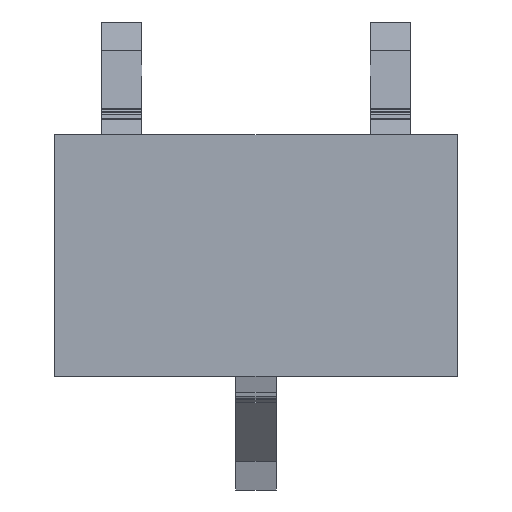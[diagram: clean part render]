
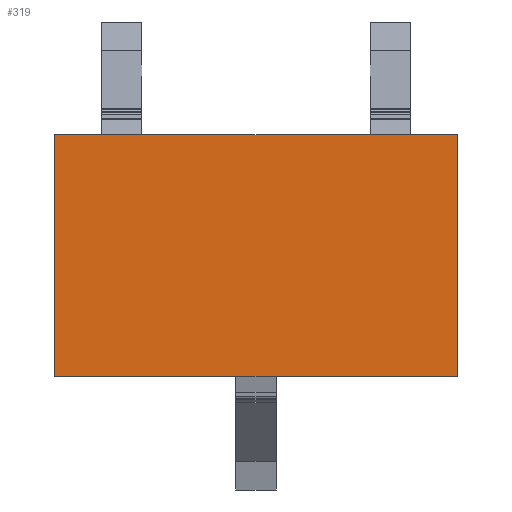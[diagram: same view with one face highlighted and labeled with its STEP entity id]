
A CAD part, top view. The second image highlights one B-rep face of the part: STEP entity #319.
In plain terms, the highlighted planar face has unit normal (0, 0, 1).
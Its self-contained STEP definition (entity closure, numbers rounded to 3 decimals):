
#24 = VERTEX_POINT('',#25);
#25 = CARTESIAN_POINT('',(0.,-0.9,1.3));
#32 = PLANE('',#33);
#33 = AXIS2_PLACEMENT_3D('',#34,#35,#36);
#34 = CARTESIAN_POINT('',(0.,-0.9,0.15));
#35 = DIRECTION('',(1.,0.,0.));
#36 = DIRECTION('',(0.,0.,1.));
#44 = PLANE('',#45);
#45 = AXIS2_PLACEMENT_3D('',#46,#47,#48);
#46 = CARTESIAN_POINT('',(0.,-0.9,0.15));
#47 = DIRECTION('',(0.,1.,0.));
#48 = DIRECTION('',(0.,0.,1.));
#85 = VERTEX_POINT('',#86);
#86 = CARTESIAN_POINT('',(0.,0.9,1.3));
#100 = PLANE('',#101);
#101 = AXIS2_PLACEMENT_3D('',#102,#103,#104);
#102 = CARTESIAN_POINT('',(0.,0.9,0.15));
#103 = DIRECTION('',(0.,1.,0.));
#104 = DIRECTION('',(0.,0.,1.));
#112 = EDGE_CURVE('',#24,#85,#113,.T.);
#113 = SURFACE_CURVE('',#114,(#118,#125),.PCURVE_S1.);
#114 = LINE('',#115,#116);
#115 = CARTESIAN_POINT('',(0.,-0.9,1.3));
#116 = VECTOR('',#117,1.);
#117 = DIRECTION('',(0.,1.,0.));
#118 = PCURVE('',#32,#119);
#119 = DEFINITIONAL_REPRESENTATION('',(#120),#124);
#120 = LINE('',#121,#122);
#121 = CARTESIAN_POINT('',(1.15,0.));
#122 = VECTOR('',#123,1.);
#123 = DIRECTION('',(0.,-1.));
#124 = ( GEOMETRIC_REPRESENTATION_CONTEXT(2) 
PARAMETRIC_REPRESENTATION_CONTEXT() REPRESENTATION_CONTEXT('2D SPACE',''
  ) );
#125 = PCURVE('',#126,#131);
#126 = PLANE('',#127);
#127 = AXIS2_PLACEMENT_3D('',#128,#129,#130);
#128 = CARTESIAN_POINT('',(0.,-0.9,1.3));
#129 = DIRECTION('',(0.,0.,1.));
#130 = DIRECTION('',(1.,0.,0.));
#131 = DEFINITIONAL_REPRESENTATION('',(#132),#136);
#132 = LINE('',#133,#134);
#133 = CARTESIAN_POINT('',(0.,0.));
#134 = VECTOR('',#135,1.);
#135 = DIRECTION('',(0.,1.));
#136 = ( GEOMETRIC_REPRESENTATION_CONTEXT(2) 
PARAMETRIC_REPRESENTATION_CONTEXT() REPRESENTATION_CONTEXT('2D SPACE',''
  ) );
#165 = EDGE_CURVE('',#24,#166,#168,.T.);
#166 = VERTEX_POINT('',#167);
#167 = CARTESIAN_POINT('',(3.,-0.9,1.3));
#168 = SURFACE_CURVE('',#169,(#173,#180),.PCURVE_S1.);
#169 = LINE('',#170,#171);
#170 = CARTESIAN_POINT('',(0.,-0.9,1.3));
#171 = VECTOR('',#172,1.);
#172 = DIRECTION('',(1.,0.,0.));
#173 = PCURVE('',#44,#174);
#174 = DEFINITIONAL_REPRESENTATION('',(#175),#179);
#175 = LINE('',#176,#177);
#176 = CARTESIAN_POINT('',(1.15,0.));
#177 = VECTOR('',#178,1.);
#178 = DIRECTION('',(0.,1.));
#179 = ( GEOMETRIC_REPRESENTATION_CONTEXT(2) 
PARAMETRIC_REPRESENTATION_CONTEXT() REPRESENTATION_CONTEXT('2D SPACE',''
  ) );
#180 = PCURVE('',#126,#181);
#181 = DEFINITIONAL_REPRESENTATION('',(#182),#186);
#182 = LINE('',#183,#184);
#183 = CARTESIAN_POINT('',(0.,0.));
#184 = VECTOR('',#185,1.);
#185 = DIRECTION('',(1.,0.));
#186 = ( GEOMETRIC_REPRESENTATION_CONTEXT(2) 
PARAMETRIC_REPRESENTATION_CONTEXT() REPRESENTATION_CONTEXT('2D SPACE',''
  ) );
#202 = PLANE('',#203);
#203 = AXIS2_PLACEMENT_3D('',#204,#205,#206);
#204 = CARTESIAN_POINT('',(3.,-0.9,0.15));
#205 = DIRECTION('',(1.,0.,0.));
#206 = DIRECTION('',(0.,0.,1.));
#319 = ADVANCED_FACE('',(#320),#126,.T.);
#320 = FACE_BOUND('',#321,.T.);
#321 = EDGE_LOOP('',(#322,#323,#324,#347));
#322 = ORIENTED_EDGE('',*,*,#112,.F.);
#323 = ORIENTED_EDGE('',*,*,#165,.T.);
#324 = ORIENTED_EDGE('',*,*,#325,.T.);
#325 = EDGE_CURVE('',#166,#326,#328,.T.);
#326 = VERTEX_POINT('',#327);
#327 = CARTESIAN_POINT('',(3.,0.9,1.3));
#328 = SURFACE_CURVE('',#329,(#333,#340),.PCURVE_S1.);
#329 = LINE('',#330,#331);
#330 = CARTESIAN_POINT('',(3.,-0.9,1.3));
#331 = VECTOR('',#332,1.);
#332 = DIRECTION('',(0.,1.,0.));
#333 = PCURVE('',#126,#334);
#334 = DEFINITIONAL_REPRESENTATION('',(#335),#339);
#335 = LINE('',#336,#337);
#336 = CARTESIAN_POINT('',(3.,0.));
#337 = VECTOR('',#338,1.);
#338 = DIRECTION('',(0.,1.));
#339 = ( GEOMETRIC_REPRESENTATION_CONTEXT(2) 
PARAMETRIC_REPRESENTATION_CONTEXT() REPRESENTATION_CONTEXT('2D SPACE',''
  ) );
#340 = PCURVE('',#202,#341);
#341 = DEFINITIONAL_REPRESENTATION('',(#342),#346);
#342 = LINE('',#343,#344);
#343 = CARTESIAN_POINT('',(1.15,0.));
#344 = VECTOR('',#345,1.);
#345 = DIRECTION('',(0.,-1.));
#346 = ( GEOMETRIC_REPRESENTATION_CONTEXT(2) 
PARAMETRIC_REPRESENTATION_CONTEXT() REPRESENTATION_CONTEXT('2D SPACE',''
  ) );
#347 = ORIENTED_EDGE('',*,*,#348,.F.);
#348 = EDGE_CURVE('',#85,#326,#349,.T.);
#349 = SURFACE_CURVE('',#350,(#354,#361),.PCURVE_S1.);
#350 = LINE('',#351,#352);
#351 = CARTESIAN_POINT('',(0.,0.9,1.3));
#352 = VECTOR('',#353,1.);
#353 = DIRECTION('',(1.,0.,0.));
#354 = PCURVE('',#126,#355);
#355 = DEFINITIONAL_REPRESENTATION('',(#356),#360);
#356 = LINE('',#357,#358);
#357 = CARTESIAN_POINT('',(0.,1.8));
#358 = VECTOR('',#359,1.);
#359 = DIRECTION('',(1.,0.));
#360 = ( GEOMETRIC_REPRESENTATION_CONTEXT(2) 
PARAMETRIC_REPRESENTATION_CONTEXT() REPRESENTATION_CONTEXT('2D SPACE',''
  ) );
#361 = PCURVE('',#100,#362);
#362 = DEFINITIONAL_REPRESENTATION('',(#363),#367);
#363 = LINE('',#364,#365);
#364 = CARTESIAN_POINT('',(1.15,0.));
#365 = VECTOR('',#366,1.);
#366 = DIRECTION('',(0.,1.));
#367 = ( GEOMETRIC_REPRESENTATION_CONTEXT(2) 
PARAMETRIC_REPRESENTATION_CONTEXT() REPRESENTATION_CONTEXT('2D SPACE',''
  ) );
